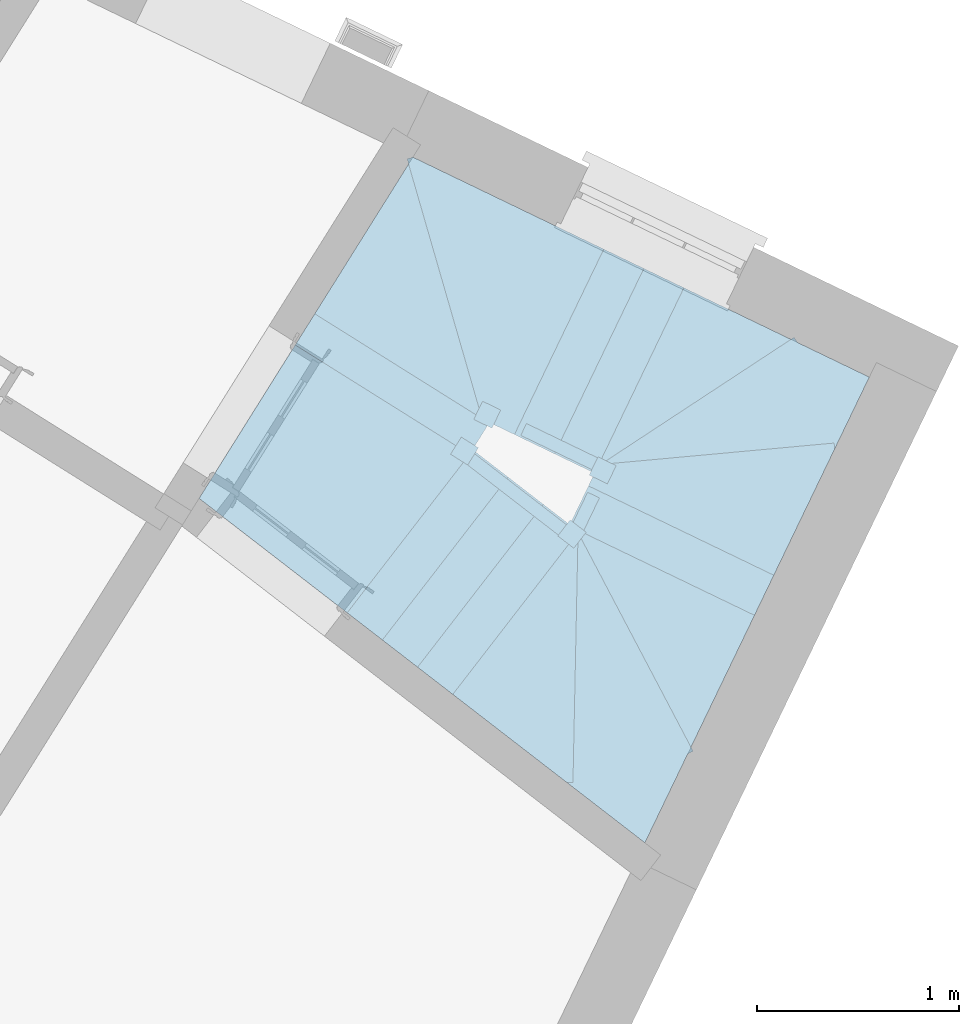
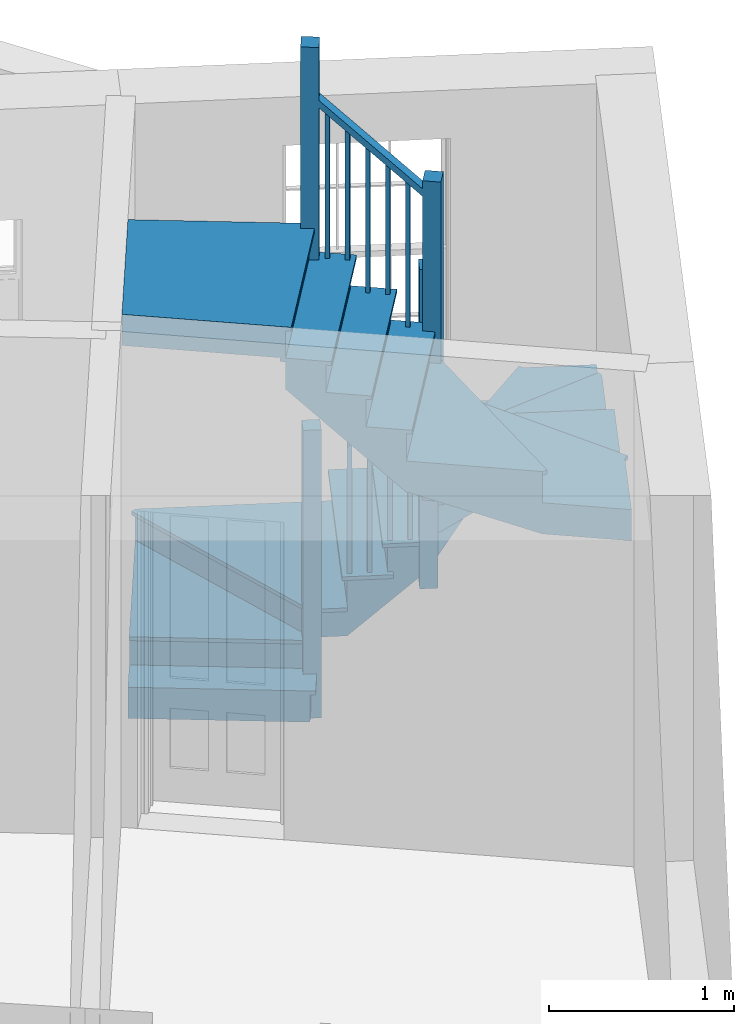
# One storey, part 6 of 6: 1 stair.
"""IFC4 building model written with IfcOpenShell, lengths in metres."""

from ifc_helpers import new_model, si_unit, frame, origin, origin_with_axes, place, context, subcontext, project, spatial, faceted_brep, element, save


model = new_model("IFC4")

# Units and contexts
model_context = context("Model", 3, world=origin_with_axes())
body_context = subcontext(model_context, "Body", "Model", "MODEL_VIEW")
ifc_project = project(units=[si_unit("PLANEANGLEUNIT", "RADIAN"), si_unit("MASSUNIT", "GRAM", prefix="KILO"), si_unit("FORCEUNIT", "NEWTON", prefix="KILO"), si_unit("LENGTHUNIT", "METRE"), si_unit("AREAUNIT", "SQUARE_METRE"), si_unit("VOLUMEUNIT", "CUBIC_METRE")], contexts=[model_context, model_context])

# Sites, building, storey
site_1_placement = place(None, origin_with_axes())
site_1 = spatial("IfcSite", under=ifc_project, at=site_1_placement, Name="Tamar")
site_2_placement = place(site_1_placement, origin_with_axes())
site_2 = spatial("IfcSite", under=site_1, at=site_2_placement, Name="Site plot-0", CompositionType="ELEMENT")
building_placement = place(None, origin_with_axes())
building = spatial("IfcBuilding", under=site_2, at=building_placement, Name="Building plot-0", CompositionType="ELEMENT")
storey_placement = place(None, frame((0.0, 0.0, 26.0), z_axis=(0.0, 0.0, 1.0), x_axis=(1.0, 0.0, 0.0)))
storey = spatial("IfcBuildingStorey", under=building, at=storey_placement, Name="plot-0 0", CompositionType="ELEMENT", Elevation=26.0)

# Stair
stair_placement = place(None, origin())
element("IfcStair", 1, at=stair_placement, inside=storey, Name="Stair", PredefinedType="NOTDEFINED", context=body_context, shape_type="Brep", body=[
    faceted_brep([(219.2889, 299.676695, 29.09375), (218.684835, 298.894737, 29.09375), (218.858937, 298.760243, 29.09375), (219.463002, 299.542201, 29.09375), (219.463002, 299.542201, 28.68125), (218.858937, 298.760243, 28.68125), (218.684835, 298.894737, 28.8875), (219.2889, 299.676695, 28.8875)], [[[0, 1, 2, 3]], [[4, 5, 6, 7]], [[7, 6, 1, 0]], [[1, 6, 5, 2]], [[5, 4, 3, 2]], [[3, 4, 7, 0]]]),
    faceted_brep([(218.858937, 298.760243, 29.06875), (218.882678, 298.741902, 29.06875), (218.858937, 298.760243, 29.09375), (218.661094, 298.913077, 29.06875), (218.684835, 298.894737, 29.06875), (218.684835, 298.894737, 29.09375), (218.882678, 298.741902, 29.09375), (218.661094, 298.913077, 29.09375), (219.505083, 299.547602, 29.09375), (219.463002, 299.542201, 29.09375), (219.463002, 299.542201, 29.06875), (219.505083, 299.547602, 29.06875), (219.283499, 299.718776, 29.09375), (219.2889, 299.676695, 29.09375), (219.2889, 299.676695, 29.06875), (219.283499, 299.718776, 29.06875)], [[[0, 1, 2]], [[3, 4, 5]], [[1, 6, 2]], [[7, 3, 5]], [[2, 6, 8, 9]], [[0, 2, 9, 10]], [[1, 0, 10, 11]], [[6, 1, 11, 8]], [[9, 8, 12, 13]], [[10, 9, 13, 14]], [[11, 10, 14, 15]], [[8, 11, 15, 12]], [[13, 12, 7, 5]], [[14, 13, 5, 4]], [[15, 14, 4, 3]], [[12, 15, 3, 7]]]),
    faceted_brep([(219.463002, 299.542201, 29.99375), (219.443218, 299.557484, 29.99375), (219.427934, 299.5377, 29.99375), (219.447719, 299.522417, 29.99375), (219.447719, 299.522417, 29.09375), (219.427934, 299.5377, 29.09375), (219.443218, 299.557484, 29.09375), (219.463002, 299.542201, 29.09375)], [[[0, 1, 2, 3]], [[4, 5, 6, 7]], [[7, 6, 1, 0]], [[6, 5, 2, 1]], [[5, 4, 3, 2]], [[4, 7, 0, 3]]]),
    faceted_brep([(219.375951, 299.609448, 30.096875), (219.356167, 299.624731, 30.096875), (219.340884, 299.604947, 30.096875), (219.360668, 299.589664, 30.096875), (219.360668, 299.589664, 29.09375), (219.340884, 299.604947, 29.09375), (219.356167, 299.624731, 29.09375), (219.375951, 299.609448, 29.09375)], [[[0, 1, 2, 3]], [[4, 5, 6, 7]], [[7, 6, 1, 0]], [[6, 5, 2, 1]], [[5, 4, 3, 2]], [[4, 7, 0, 3]]]),
    faceted_brep([(219.435492, 299.506589, 29.94375), (219.475229, 299.558028, 29.94375), (219.475229, 299.558028, 29.99375), (219.435492, 299.506589, 29.99375), (219.301127, 299.692522, 30.15), (219.26139, 299.641083, 30.15), (219.26139, 299.641083, 30.2), (219.301127, 299.692522, 30.2)], [[[0, 1, 2, 3]], [[4, 5, 6, 7]], [[0, 5, 4, 1]], [[3, 2, 7, 6]], [[0, 3, 6, 5]], [[2, 1, 4, 7]]]),
    faceted_brep([(219.463002, 299.542201, 28.8875), (218.858937, 298.760243, 28.8875), (219.033038, 298.625749, 28.8875), (219.637104, 299.407707, 28.8875), (219.637104, 299.407707, 28.475), (219.033038, 298.625749, 28.475), (218.858937, 298.760243, 28.68125), (219.463002, 299.542201, 28.68125)], [[[0, 1, 2, 3]], [[4, 5, 6, 7]], [[7, 6, 1, 0]], [[1, 6, 5, 2]], [[5, 4, 3, 2]], [[3, 4, 7, 0]]]),
    faceted_brep([(219.033038, 298.625749, 28.8625), (219.056779, 298.607408, 28.8625), (219.033038, 298.625749, 28.8875), (218.835195, 298.778583, 28.8625), (218.858937, 298.760243, 28.8625), (218.858937, 298.760243, 28.8875), (219.056779, 298.607408, 28.8875), (218.835195, 298.778583, 28.8875), (219.679185, 299.413108, 28.8875), (219.637104, 299.407707, 28.8875), (219.637104, 299.407707, 28.8625), (219.679185, 299.413108, 28.8625), (219.457601, 299.584282, 28.8875), (219.463002, 299.542201, 28.8875), (219.463002, 299.542201, 28.8625), (219.457601, 299.584282, 28.8625)], [[[0, 1, 2]], [[3, 4, 5]], [[1, 6, 2]], [[7, 3, 5]], [[2, 6, 8, 9]], [[0, 2, 9, 10]], [[1, 0, 10, 11]], [[6, 1, 11, 8]], [[9, 8, 12, 13]], [[10, 9, 13, 14]], [[11, 10, 14, 15]], [[8, 11, 15, 12]], [[13, 12, 7, 5]], [[14, 13, 5, 4]], [[15, 14, 4, 3]], [[12, 15, 3, 7]]]),
    faceted_brep([(219.637104, 299.407707, 29.7875), (219.617319, 299.42299, 29.7875), (219.602036, 299.403206, 29.7875), (219.62182, 299.387923, 29.7875), (219.62182, 299.387923, 28.8875), (219.602036, 299.403206, 28.8875), (219.617319, 299.42299, 28.8875), (219.637104, 299.407707, 28.8875)], [[[0, 1, 2, 3]], [[4, 5, 6, 7]], [[7, 6, 1, 0]], [[6, 5, 2, 1]], [[5, 4, 3, 2]], [[4, 7, 0, 3]]]),
    faceted_brep([(219.550053, 299.474954, 29.890625), (219.530269, 299.490237, 29.890625), (219.514985, 299.470453, 29.890625), (219.534769, 299.45517, 29.890625), (219.534769, 299.45517, 28.8875), (219.514985, 299.470453, 28.8875), (219.530269, 299.490237, 28.8875), (219.550053, 299.474954, 28.8875)], [[[0, 1, 2, 3]], [[4, 5, 6, 7]], [[7, 6, 1, 0]], [[6, 5, 2, 1]], [[5, 4, 3, 2]], [[4, 7, 0, 3]]]),
    faceted_brep([(219.609593, 299.372095, 29.7375), (219.64933, 299.423534, 29.7375), (219.64933, 299.423534, 29.7875), (219.609593, 299.372095, 29.7875), (219.475229, 299.558028, 29.94375), (219.435492, 299.506589, 29.94375), (219.435492, 299.506589, 29.99375), (219.475229, 299.558028, 29.99375)], [[[0, 1, 2, 3]], [[4, 5, 6, 7]], [[0, 5, 4, 1]], [[3, 2, 7, 6]], [[0, 3, 6, 5]], [[2, 1, 4, 7]]]),
    faceted_brep([(219.637104, 299.407707, 28.68125), (219.033038, 298.625749, 28.68125), (219.20714, 298.491254, 28.68125), (219.811205, 299.273213, 28.68125), (219.811205, 299.273213, 28.26875), (219.20714, 298.491254, 28.26875), (219.033038, 298.625749, 28.475), (219.637104, 299.407707, 28.475)], [[[0, 1, 2, 3]], [[4, 5, 6, 7]], [[7, 6, 1, 0]], [[1, 6, 5, 2]], [[5, 4, 3, 2]], [[3, 4, 7, 0]]]),
    faceted_brep([(219.20714, 298.491254, 28.65625), (219.230881, 298.472914, 28.65625), (219.20714, 298.491254, 28.68125), (219.009297, 298.644089, 28.65625), (219.033038, 298.625749, 28.65625), (219.033038, 298.625749, 28.68125), (219.230881, 298.472914, 28.68125), (219.009297, 298.644089, 28.68125), (219.853286, 299.278614, 28.68125), (219.811205, 299.273213, 28.68125), (219.811205, 299.273213, 28.65625), (219.853286, 299.278614, 28.65625), (219.631703, 299.449788, 28.68125), (219.637104, 299.407707, 28.68125), (219.637104, 299.407707, 28.65625), (219.631703, 299.449788, 28.65625)], [[[0, 1, 2]], [[3, 4, 5]], [[1, 6, 2]], [[7, 3, 5]], [[2, 6, 8, 9]], [[0, 2, 9, 10]], [[1, 0, 10, 11]], [[6, 1, 11, 8]], [[9, 8, 12, 13]], [[10, 9, 13, 14]], [[11, 10, 14, 15]], [[8, 11, 15, 12]], [[13, 12, 7, 5]], [[14, 13, 5, 4]], [[15, 14, 4, 3]], [[12, 15, 3, 7]]]),
    faceted_brep([(219.811205, 299.273213, 29.58125), (219.791421, 299.288496, 29.58125), (219.776137, 299.268712, 29.58125), (219.795922, 299.253429, 29.58125), (219.795922, 299.253429, 28.68125), (219.776137, 299.268712, 28.68125), (219.791421, 299.288496, 28.68125), (219.811205, 299.273213, 28.68125)], [[[0, 1, 2, 3]], [[4, 5, 6, 7]], [[7, 6, 1, 0]], [[6, 5, 2, 1]], [[5, 4, 3, 2]], [[4, 7, 0, 3]]]),
    faceted_brep([(219.724154, 299.34046, 29.684375), (219.70437, 299.355743, 29.684375), (219.689087, 299.335959, 29.684375), (219.708871, 299.320676, 29.684375), (219.708871, 299.320676, 28.68125), (219.689087, 299.335959, 28.68125), (219.70437, 299.355743, 28.68125), (219.724154, 299.34046, 28.68125)], [[[0, 1, 2, 3]], [[4, 5, 6, 7]], [[7, 6, 1, 0]], [[6, 5, 2, 1]], [[5, 4, 3, 2]], [[4, 7, 0, 3]]]),
    faceted_brep([(219.783695, 299.237601, 29.53125), (219.823432, 299.28904, 29.53125), (219.823432, 299.28904, 29.58125), (219.783695, 299.237601, 29.58125), (219.64933, 299.423534, 29.7375), (219.609593, 299.372095, 29.7375), (219.609593, 299.372095, 29.7875), (219.64933, 299.423534, 29.7875)], [[[0, 1, 2, 3]], [[4, 5, 6, 7]], [[0, 5, 4, 1]], [[3, 2, 7, 6]], [[0, 3, 6, 5]], [[2, 1, 4, 7]]]),
    faceted_brep([(219.811205, 299.273213, 28.475), (219.20714, 298.491254, 28.475), (219.21646, 298.484054, 28.475), (219.820526, 299.266013, 28.475), (219.820526, 299.266013, 28.26875), (219.21646, 298.484054, 28.26875), (219.20714, 298.491254, 28.26875), (219.811205, 299.273213, 28.26875)], [[[0, 1, 2, 3]], [[4, 5, 6, 7]], [[7, 6, 1, 0]], [[6, 5, 2, 1]], [[5, 4, 3, 2]], [[4, 7, 0, 3]]]),
    faceted_brep([(219.820526, 299.266013, 28.45), (219.838866, 299.289754, 28.45), (219.820526, 299.266013, 28.475), (219.829545, 299.296954, 28.45), (219.811205, 299.273213, 28.45), (219.811205, 299.273213, 28.475), (219.838866, 299.289754, 28.475), (219.829545, 299.296954, 28.475)], [[[0, 1, 2]], [[3, 4, 5]], [[1, 6, 2]], [[7, 3, 5]], [[2, 6, 7, 5]], [[0, 2, 5, 4]], [[1, 0, 4, 3]], [[6, 1, 3, 7]]]),
    faceted_brep([(219.890661, 299.275015, 29.675), (219.811524, 299.336148, 29.675), (219.75039, 299.257011, 29.675), (219.829527, 299.195877, 29.675), (219.829527, 299.195877, 28.475), (219.75039, 299.257011, 28.475), (219.811524, 299.336148, 28.475), (219.890661, 299.275015, 28.475)], [[[0, 1, 2, 3]], [[4, 5, 6, 7]], [[7, 6, 1, 0]], [[6, 5, 2, 1]], [[5, 4, 3, 2]], [[4, 7, 0, 3]]]),
    faceted_brep([(219.21646, 298.484054, 28.475), (219.795399, 298.036822, 28.475), (219.820526, 299.266013, 28.475), (219.820526, 299.266013, 28.0625), (219.795399, 298.036822, 28.0625), (219.21646, 298.484054, 28.26875)], [[[0, 1, 2]], [[3, 4, 5]], [[0, 5, 4, 1]], [[4, 3, 2, 1]], [[2, 3, 5, 0]]]),
    faceted_brep([(219.795399, 298.036822, 28.45), (219.825393, 298.036209, 28.45), (219.795399, 298.036822, 28.475), (219.850519, 299.2654, 28.45), (219.820526, 299.266013, 28.45), (219.820526, 299.266013, 28.475), (219.825393, 298.036209, 28.475), (219.850519, 299.2654, 28.475)], [[[0, 1, 2]], [[3, 4, 5]], [[1, 6, 2]], [[7, 3, 5]], [[2, 6, 7, 5]], [[0, 2, 5, 4]], [[1, 0, 4, 3]], [[6, 1, 3, 7]]]),
    faceted_brep([(219.795399, 298.036822, 28.26875), (220.181359, 297.738667, 28.26875), (220.393082, 298.178024, 28.26875), (219.820526, 299.266013, 28.26875), (219.820526, 299.266013, 27.85625), (220.393082, 298.178024, 27.85625), (220.181359, 297.738667, 28.0625), (219.795399, 298.036822, 28.0625)], [[[0, 1, 2, 3]], [[4, 5, 6, 7]], [[7, 6, 1, 0]], [[1, 6, 5, 2]], [[5, 4, 3, 2]], [[3, 4, 7, 0]]]),
    faceted_brep([(220.419631, 298.191995, 28.24375), (220.419631, 298.191995, 28.26875), (220.393082, 298.178024, 28.24375), (219.847074, 299.279984, 28.26875), (219.847074, 299.279984, 28.24375), (219.820526, 299.266013, 28.24375), (220.393082, 298.178024, 28.26875), (219.820526, 299.266013, 28.26875)], [[[0, 1, 2]], [[3, 4, 5]], [[2, 1, 6]], [[3, 5, 7]], [[6, 1, 3, 7]], [[2, 6, 7, 5]], [[0, 2, 5, 4]], [[1, 0, 4, 3]]]),
    faceted_brep([(220.393082, 298.178024, 28.0625), (220.710667, 298.837059, 28.0625), (219.820526, 299.266013, 28.0625), (219.820526, 299.266013, 27.65), (220.710667, 298.837059, 27.65), (220.393082, 298.178024, 27.85625)], [[[0, 1, 2]], [[3, 4, 5]], [[0, 5, 4, 1]], [[4, 3, 2, 1]], [[2, 3, 5, 0]]]),
    faceted_brep([(220.723691, 298.864084, 28.0375), (220.723691, 298.864084, 28.0625), (220.710667, 298.837059, 28.0375), (219.833549, 299.293038, 28.0625), (219.833549, 299.293038, 28.0375), (219.820526, 299.266013, 28.0375), (220.710667, 298.837059, 28.0625), (219.820526, 299.266013, 28.0625)], [[[0, 1, 2]], [[3, 4, 5]], [[2, 1, 6]], [[3, 5, 7]], [[6, 1, 3, 7]], [[2, 6, 7, 5]], [[0, 2, 5, 4]], [[1, 0, 4, 3]]]),
    faceted_brep([(219.890661, 299.275015, 28.475), (219.811524, 299.336148, 28.475), (219.75039, 299.257011, 28.475), (219.829527, 299.195877, 28.475), (219.829527, 299.195877, 27.5625), (219.75039, 299.257011, 27.5625), (219.811524, 299.336148, 27.5625), (219.890661, 299.275015, 27.5625)], [[[0, 1, 2, 3]], [[4, 5, 6, 7]], [[7, 6, 1, 0]], [[6, 5, 2, 1]], [[5, 4, 3, 2]], [[4, 7, 0, 3]]]),
    faceted_brep([(219.820526, 299.266013, 27.85625), (220.710667, 298.837059, 27.85625), (220.806173, 299.035247, 27.85625), (219.916031, 299.464201, 27.85625), (219.916031, 299.464201, 27.44375), (220.806173, 299.035247, 27.44375), (220.710667, 298.837059, 27.65), (219.820526, 299.266013, 27.65)], [[[0, 1, 2, 3]], [[4, 5, 6, 7]], [[7, 6, 1, 0]], [[1, 6, 5, 2]], [[5, 4, 3, 2]], [[3, 4, 7, 0]]]),
    faceted_brep([(220.806173, 299.035247, 27.83125), (220.819197, 299.062273, 27.83125), (220.806173, 299.035247, 27.85625), (220.697644, 298.810033, 27.83125), (220.710667, 298.837059, 27.83125), (220.710667, 298.837059, 27.85625), (220.819197, 299.062273, 27.85625), (220.697644, 298.810033, 27.85625), (219.902029, 299.50425, 27.85625), (219.916031, 299.464201, 27.85625), (219.916031, 299.464201, 27.83125), (219.902029, 299.50425, 27.83125), (219.780476, 299.252011, 27.85625), (219.820526, 299.266013, 27.85625), (219.820526, 299.266013, 27.83125), (219.780476, 299.252011, 27.83125)], [[[0, 1, 2]], [[3, 4, 5]], [[1, 6, 2]], [[7, 3, 5]], [[2, 6, 8, 9]], [[0, 2, 9, 10]], [[1, 0, 10, 11]], [[6, 1, 11, 8]], [[9, 8, 12, 13]], [[10, 9, 13, 14]], [[11, 10, 14, 15]], [[8, 11, 15, 12]], [[13, 12, 7, 5]], [[14, 13, 5, 4]], [[15, 14, 4, 3]], [[12, 15, 3, 7]]]),
    faceted_brep([(219.916031, 299.464201, 28.75625), (219.905179, 299.44168, 28.75625), (219.9277, 299.430827, 28.75625), (219.938553, 299.453348, 28.75625), (219.938553, 299.453348, 27.85625), (219.9277, 299.430827, 27.85625), (219.905179, 299.44168, 27.85625), (219.916031, 299.464201, 27.85625)], [[[0, 1, 2, 3]], [[4, 5, 6, 7]], [[7, 6, 1, 0]], [[6, 5, 2, 1]], [[5, 4, 3, 2]], [[4, 7, 0, 3]]]),
    faceted_brep([(219.868279, 299.365107, 28.859375), (219.857426, 299.342586, 28.859375), (219.879947, 299.331733, 28.859375), (219.8908, 299.354254, 28.859375), (219.8908, 299.354254, 27.85625), (219.879947, 299.331733, 27.85625), (219.857426, 299.342586, 27.85625), (219.868279, 299.365107, 27.85625)], [[[0, 1, 2, 3]], [[4, 5, 6, 7]], [[7, 6, 1, 0]], [[6, 5, 2, 1]], [[5, 4, 3, 2]], [[4, 7, 0, 3]]]),
    faceted_brep([(219.95657, 299.444666, 28.70625), (219.898014, 299.472884, 28.70625), (219.898014, 299.472884, 28.75625), (219.95657, 299.444666, 28.75625), (219.802508, 299.274695, 28.9125), (219.861064, 299.246478, 28.9125), (219.861064, 299.246478, 28.9625), (219.802508, 299.274695, 28.9625)], [[[0, 1, 2, 3]], [[4, 5, 6, 7]], [[0, 5, 4, 1]], [[3, 2, 7, 6]], [[0, 3, 6, 5]], [[2, 1, 4, 7]]]),
    faceted_brep([(219.916031, 299.464201, 27.65), (220.806173, 299.035247, 27.65), (220.862556, 299.15225, 27.65), (219.972415, 299.581204, 27.65), (219.972415, 299.581204, 27.44375), (220.862556, 299.15225, 27.44375), (220.806173, 299.035247, 27.44375), (219.916031, 299.464201, 27.44375)], [[[0, 1, 2, 3]], [[4, 5, 6, 7]], [[7, 6, 1, 0]], [[6, 5, 2, 1]], [[5, 4, 3, 2]], [[4, 7, 0, 3]]]),
    faceted_brep([(219.945389, 299.594228, 27.625), (219.945389, 299.594228, 27.65), (219.972415, 299.581204, 27.625), (219.889006, 299.477225, 27.65), (219.889006, 299.477225, 27.625), (219.916031, 299.464201, 27.625), (219.972415, 299.581204, 27.65), (219.916031, 299.464201, 27.65)], [[[0, 1, 2]], [[3, 4, 5]], [[2, 1, 6]], [[3, 5, 7]], [[6, 1, 3, 7]], [[2, 6, 7, 5]], [[0, 2, 5, 4]], [[1, 0, 4, 3]]]),
    faceted_brep([(219.949078, 299.647953, 28.85), (219.905666, 299.557867, 28.85), (219.995752, 299.514456, 28.85), (220.039163, 299.604541, 28.85), (220.039163, 299.604541, 27.65), (219.995752, 299.514456, 27.65), (219.905666, 299.557867, 27.65), (219.949078, 299.647953, 27.65)], [[[0, 1, 2, 3]], [[4, 5, 6, 7]], [[7, 6, 1, 0]], [[6, 5, 2, 1]], [[5, 4, 3, 2]], [[4, 7, 0, 3]]]),
    faceted_brep([(220.862556, 299.15225, 27.65), (221.119929, 299.686335, 27.65), (219.972415, 299.581204, 27.65), (219.972415, 299.581204, 27.2375), (221.119929, 299.686335, 27.2375), (220.862556, 299.15225, 27.44375)], [[[0, 1, 2]], [[3, 4, 5]], [[0, 5, 4, 1]], [[4, 3, 2, 1]], [[2, 3, 5, 0]]]),
    faceted_brep([(221.117192, 299.71621, 27.625), (221.117192, 299.71621, 27.65), (221.119929, 299.686335, 27.625), (219.969678, 299.611079, 27.65), (219.969678, 299.611079, 27.625), (219.972415, 299.581204, 27.625), (221.119929, 299.686335, 27.65), (219.972415, 299.581204, 27.65)], [[[0, 1, 2]], [[3, 4, 5]], [[2, 1, 6]], [[3, 5, 7]], [[6, 1, 3, 7]], [[2, 6, 7, 5]], [[0, 2, 5, 4]], [[1, 0, 4, 3]]]),
    faceted_brep([(221.119929, 299.686335, 27.44375), (221.291511, 300.042392, 27.44375), (220.935454, 300.213974, 27.44375), (219.972415, 299.581204, 27.44375), (219.972415, 299.581204, 27.03125), (220.935454, 300.213974, 27.03125), (221.291511, 300.042392, 27.2375), (221.119929, 299.686335, 27.2375)], [[[0, 1, 2, 3]], [[4, 5, 6, 7]], [[7, 6, 1, 0]], [[1, 6, 5, 2]], [[5, 4, 3, 2]], [[3, 4, 7, 0]]]),
    faceted_brep([(220.935454, 300.213974, 27.41875), (220.91898, 300.239046, 27.41875), (220.935454, 300.213974, 27.44375), (219.955941, 299.606277, 27.41875), (219.972415, 299.581204, 27.41875), (219.972415, 299.581204, 27.44375), (220.91898, 300.239046, 27.44375), (219.955941, 299.606277, 27.44375)], [[[0, 1, 2]], [[3, 4, 5]], [[1, 6, 2]], [[7, 3, 5]], [[2, 6, 7, 5]], [[0, 2, 5, 4]], [[1, 0, 4, 3]], [[6, 1, 3, 7]]]),
    faceted_brep([(220.935454, 300.213974, 27.2375), (220.401369, 300.471346, 27.2375), (219.972415, 299.581204, 27.2375), (219.972415, 299.581204, 26.825), (220.401369, 300.471346, 26.825), (220.935454, 300.213974, 27.03125)], [[[0, 1, 2]], [[3, 4, 5]], [[0, 5, 4, 1]], [[4, 3, 2, 1]], [[2, 3, 5, 0]]]),
    faceted_brep([(220.374343, 300.48437, 27.2125), (220.374343, 300.48437, 27.2375), (220.401369, 300.471346, 27.2125), (219.945389, 299.594228, 27.2375), (219.945389, 299.594228, 27.2125), (219.972415, 299.581204, 27.2125), (220.401369, 300.471346, 27.2375), (219.972415, 299.581204, 27.2375)], [[[0, 1, 2]], [[3, 4, 5]], [[2, 1, 6]], [[3, 5, 7]], [[6, 1, 3, 7]], [[2, 6, 7, 5]], [[0, 2, 5, 4]], [[1, 0, 4, 3]]]),
    faceted_brep([(219.949078, 299.647953, 27.65), (219.905666, 299.557867, 27.65), (219.995752, 299.514456, 27.65), (220.039163, 299.604541, 27.65), (220.039163, 299.604541, 26.7375), (219.995752, 299.514456, 26.7375), (219.905666, 299.557867, 26.7375), (219.949078, 299.647953, 26.7375)], [[[0, 1, 2, 3]], [[4, 5, 6, 7]], [[7, 6, 1, 0]], [[6, 5, 2, 1]], [[5, 4, 3, 2]], [[4, 7, 0, 3]]]),
    faceted_brep([(219.972415, 299.581204, 27.03125), (220.401369, 300.471346, 27.03125), (220.20318, 300.566852, 27.03125), (219.774226, 299.67671, 27.03125), (219.774226, 299.67671, 26.61875), (220.20318, 300.566852, 26.61875), (220.401369, 300.471346, 26.825), (219.972415, 299.581204, 26.825)], [[[0, 1, 2, 3]], [[4, 5, 6, 7]], [[7, 6, 1, 0]], [[1, 6, 5, 2]], [[5, 4, 3, 2]], [[3, 4, 7, 0]]]),
    faceted_brep([(220.176155, 300.579876, 27.00625), (220.176155, 300.579876, 27.03125), (220.20318, 300.566852, 27.00625), (220.428394, 300.458323, 27.03125), (220.428394, 300.458323, 27.00625), (220.401369, 300.471346, 27.00625), (220.20318, 300.566852, 27.03125), (220.401369, 300.471346, 27.03125), (219.734177, 299.662708, 27.03125), (219.774226, 299.67671, 27.03125), (219.774226, 299.67671, 27.00625), (219.734177, 299.662708, 27.00625), (219.986417, 299.541155, 27.03125), (219.972415, 299.581204, 27.03125), (219.972415, 299.581204, 27.00625), (219.986417, 299.541155, 27.00625)], [[[0, 1, 2]], [[3, 4, 5]], [[2, 1, 6]], [[3, 5, 7]], [[6, 1, 8, 9]], [[2, 6, 9, 10]], [[0, 2, 10, 11]], [[1, 0, 11, 8]], [[9, 8, 12, 13]], [[10, 9, 13, 14]], [[11, 10, 14, 15]], [[8, 11, 15, 12]], [[13, 12, 3, 7]], [[14, 13, 7, 5]], [[15, 14, 5, 4]], [[12, 15, 4, 3]]]),
    faceted_brep([(219.774226, 299.67671, 27.93125), (219.796748, 299.665857, 27.93125), (219.807601, 299.688379, 27.93125), (219.785079, 299.699232, 27.93125), (219.785079, 299.699232, 27.03125), (219.807601, 299.688379, 27.03125), (219.796748, 299.665857, 27.03125), (219.774226, 299.67671, 27.03125)], [[[0, 1, 2, 3]], [[4, 5, 6, 7]], [[7, 6, 1, 0]], [[6, 5, 2, 1]], [[5, 4, 3, 2]], [[4, 7, 0, 3]]]),
    faceted_brep([(219.87332, 299.628957, 28.034375), (219.895842, 299.618104, 28.034375), (219.906695, 299.640626, 28.034375), (219.884173, 299.651479, 28.034375), (219.884173, 299.651479, 27.03125), (219.906695, 299.640626, 27.03125), (219.895842, 299.618104, 27.03125), (219.87332, 299.628957, 27.03125)], [[[0, 1, 2, 3]], [[4, 5, 6, 7]], [[7, 6, 1, 0]], [[6, 5, 2, 1]], [[5, 4, 3, 2]], [[4, 7, 0, 3]]]),
    faceted_brep([(219.793761, 299.717249, 27.88125), (219.765544, 299.658693, 27.88125), (219.765544, 299.658693, 27.93125), (219.793761, 299.717249, 27.93125), (219.963732, 299.563187, 28.0875), (219.99195, 299.621743, 28.0875), (219.99195, 299.621743, 28.1375), (219.963732, 299.563187, 28.1375)], [[[0, 1, 2, 3]], [[4, 5, 6, 7]], [[0, 5, 4, 1]], [[3, 2, 7, 6]], [[0, 3, 6, 5]], [[2, 1, 4, 7]]]),
    faceted_brep([(219.774226, 299.67671, 26.825), (220.20318, 300.566852, 26.825), (220.004992, 300.662358, 26.825), (219.576038, 299.772216, 26.825), (219.576038, 299.772216, 26.4125), (220.004992, 300.662358, 26.4125), (220.20318, 300.566852, 26.61875), (219.774226, 299.67671, 26.61875)], [[[0, 1, 2, 3]], [[4, 5, 6, 7]], [[7, 6, 1, 0]], [[1, 6, 5, 2]], [[5, 4, 3, 2]], [[3, 4, 7, 0]]]),
    faceted_brep([(220.004992, 300.662358, 26.8), (219.977966, 300.675381, 26.8), (220.004992, 300.662358, 26.825), (220.230206, 300.553829, 26.8), (220.20318, 300.566852, 26.8), (220.20318, 300.566852, 26.825), (219.977966, 300.675381, 26.825), (220.230206, 300.553829, 26.825), (219.535989, 299.758214, 26.825), (219.576038, 299.772216, 26.825), (219.576038, 299.772216, 26.8), (219.535989, 299.758214, 26.8), (219.788228, 299.636661, 26.825), (219.774226, 299.67671, 26.825), (219.774226, 299.67671, 26.8), (219.788228, 299.636661, 26.8)], [[[0, 1, 2]], [[3, 4, 5]], [[1, 6, 2]], [[7, 3, 5]], [[2, 6, 8, 9]], [[0, 2, 9, 10]], [[1, 0, 10, 11]], [[6, 1, 11, 8]], [[9, 8, 12, 13]], [[10, 9, 13, 14]], [[11, 10, 14, 15]], [[8, 11, 15, 12]], [[13, 12, 7, 5]], [[14, 13, 5, 4]], [[15, 14, 4, 3]], [[12, 15, 3, 7]]]),
    faceted_brep([(219.576038, 299.772216, 27.725), (219.598559, 299.761363, 27.725), (219.609412, 299.783884, 27.725), (219.586891, 299.794737, 27.725), (219.586891, 299.794737, 26.825), (219.609412, 299.783884, 26.825), (219.598559, 299.761363, 26.825), (219.576038, 299.772216, 26.825)], [[[0, 1, 2, 3]], [[4, 5, 6, 7]], [[7, 6, 1, 0]], [[6, 5, 2, 1]], [[5, 4, 3, 2]], [[4, 7, 0, 3]]]),
    faceted_brep([(219.675132, 299.724463, 27.828125), (219.697653, 299.71361, 27.828125), (219.708506, 299.736132, 27.828125), (219.685985, 299.746985, 27.828125), (219.685985, 299.746985, 26.825), (219.708506, 299.736132, 26.825), (219.697653, 299.71361, 26.825), (219.675132, 299.724463, 26.825)], [[[0, 1, 2, 3]], [[4, 5, 6, 7]], [[7, 6, 1, 0]], [[6, 5, 2, 1]], [[5, 4, 3, 2]], [[4, 7, 0, 3]]]),
    faceted_brep([(219.595573, 299.812755, 27.675), (219.567355, 299.754199, 27.675), (219.567355, 299.754199, 27.725), (219.595573, 299.812755, 27.725), (219.765544, 299.658693, 27.88125), (219.793761, 299.717249, 27.88125), (219.793761, 299.717249, 27.93125), (219.765544, 299.658693, 27.93125)], [[[0, 1, 2, 3]], [[4, 5, 6, 7]], [[0, 5, 4, 1]], [[3, 2, 7, 6]], [[0, 3, 6, 5]], [[2, 1, 4, 7]]]),
    faceted_brep([(219.576038, 299.772216, 26.61875), (220.004992, 300.662358, 26.61875), (219.830414, 300.746486, 26.61875), (219.40146, 299.856344, 26.61875), (219.40146, 299.856344, 26.4125), (219.830414, 300.746486, 26.4125), (220.004992, 300.662358, 26.4125), (219.576038, 299.772216, 26.4125)], [[[0, 1, 2, 3]], [[4, 5, 6, 7]], [[7, 6, 1, 0]], [[6, 5, 2, 1]], [[5, 4, 3, 2]], [[4, 7, 0, 3]]]),
    faceted_brep([(219.40146, 299.856344, 26.59375), (219.388437, 299.829318, 26.59375), (219.40146, 299.856344, 26.61875), (219.563014, 299.74519, 26.59375), (219.576038, 299.772216, 26.59375), (219.576038, 299.772216, 26.61875), (219.388437, 299.829318, 26.61875), (219.563014, 299.74519, 26.61875)], [[[0, 1, 2]], [[3, 4, 5]], [[1, 6, 2]], [[7, 3, 5]], [[2, 6, 7, 5]], [[0, 2, 5, 4]], [[1, 0, 4, 3]], [[6, 1, 3, 7]]]),
    faceted_brep([(219.334711, 299.833007, 27.81875), (219.424797, 299.789595, 27.81875), (219.468209, 299.879681, 27.81875), (219.378123, 299.923093, 27.81875), (219.378123, 299.923093, 26.61875), (219.468209, 299.879681, 26.61875), (219.424797, 299.789595, 26.61875), (219.334711, 299.833007, 26.61875)], [[[0, 1, 2, 3]], [[4, 5, 6, 7]], [[7, 6, 1, 0]], [[6, 5, 2, 1]], [[5, 4, 3, 2]], [[4, 7, 0, 3]]]),
    faceted_brep([(219.830414, 300.746486, 26.61875), (219.033699, 301.130418, 26.61875), (219.40146, 299.856344, 26.61875), (219.40146, 299.856344, 26.20625), (219.033699, 301.130418, 26.20625), (219.830414, 300.746486, 26.4125)], [[[0, 1, 2]], [[3, 4, 5]], [[0, 5, 4, 1]], [[4, 3, 2, 1]], [[2, 3, 5, 0]]]),
    faceted_brep([(219.004876, 301.122098, 26.59375), (219.004876, 301.122098, 26.61875), (219.033699, 301.130418, 26.59375), (219.372637, 299.848024, 26.61875), (219.372637, 299.848024, 26.59375), (219.40146, 299.856344, 26.59375), (219.033699, 301.130418, 26.61875), (219.40146, 299.856344, 26.61875)], [[[0, 1, 2]], [[3, 4, 5]], [[2, 1, 6]], [[3, 5, 7]], [[6, 1, 3, 7]], [[2, 6, 7, 5]], [[0, 2, 5, 4]], [[1, 0, 4, 3]]]),
    faceted_brep([(219.033699, 301.130418, 26.4125), (218.564133, 300.380974, 26.4125), (219.40146, 299.856344, 26.4125), (219.40146, 299.856344, 26.0), (218.564133, 300.380974, 26.0), (219.033699, 301.130418, 26.20625)], [[[0, 1, 2]], [[3, 4, 5]], [[0, 5, 4, 1]], [[4, 3, 2, 1]], [[2, 3, 5, 0]]]),
    faceted_brep([(218.564133, 300.380974, 26.3875), (218.548204, 300.355552, 26.3875), (218.564133, 300.380974, 26.4125), (219.385532, 299.830922, 26.3875), (219.40146, 299.856344, 26.3875), (219.40146, 299.856344, 26.4125), (218.548204, 300.355552, 26.4125), (219.385532, 299.830922, 26.4125)], [[[0, 1, 2]], [[3, 4, 5]], [[1, 6, 2]], [[7, 3, 5]], [[2, 6, 7, 5]], [[0, 2, 5, 4]], [[1, 0, 4, 3]], [[6, 1, 3, 7]]]),
    faceted_brep([(219.334711, 299.833007, 26.61875), (219.424797, 299.789595, 26.61875), (219.468209, 299.879681, 26.61875), (219.378123, 299.923093, 26.61875), (219.378123, 299.923093, 25.9125), (219.468209, 299.879681, 25.9125), (219.424797, 299.789595, 25.9125), (219.334711, 299.833007, 25.9125)], [[[0, 1, 2, 3]], [[4, 5, 6, 7]], [[7, 6, 1, 0]], [[6, 5, 2, 1]], [[5, 4, 3, 2]], [[4, 7, 0, 3]]]),
    faceted_brep([(219.40146, 299.856344, 26.20625), (218.564133, 300.380974, 26.20625), (218.451573, 300.201325, 26.20625), (219.2889, 299.676695, 26.20625), (219.2889, 299.676695, 26.0), (218.451573, 300.201325, 26.0), (218.564133, 300.380974, 26.0), (219.40146, 299.856344, 26.0)], [[[0, 1, 2, 3]], [[4, 5, 6, 7]], [[7, 6, 1, 0]], [[6, 5, 2, 1]], [[5, 4, 3, 2]], [[4, 7, 0, 3]]]),
    faceted_brep([(219.314323, 299.660767, 26.18125), (219.314323, 299.660767, 26.20625), (219.2889, 299.676695, 26.18125), (219.426882, 299.840416, 26.20625), (219.426882, 299.840416, 26.18125), (219.40146, 299.856344, 26.18125), (219.2889, 299.676695, 26.20625), (219.40146, 299.856344, 26.20625)], [[[0, 1, 2]], [[3, 4, 5]], [[2, 1, 6]], [[3, 5, 7]], [[6, 1, 3, 7]], [[2, 6, 7, 5]], [[0, 2, 5, 4]], [[1, 0, 4, 3]]]),
    faceted_brep([(219.304724, 299.607777, 30.5), (219.357818, 299.692518, 30.5), (219.273077, 299.745613, 30.5), (219.219983, 299.660872, 30.5), (219.219983, 299.660872, 29.3), (219.273077, 299.745613, 29.3), (219.357818, 299.692518, 29.3), (219.304724, 299.607777, 29.3)], [[[0, 1, 2, 3]], [[4, 5, 6, 7]], [[7, 6, 1, 0]], [[6, 5, 2, 1]], [[5, 4, 3, 2]], [[4, 7, 0, 3]]]),
    faceted_brep([(219.2889, 299.676695, 29.3), (218.451573, 300.201325, 29.3), (217.976008, 299.442308, 29.3), (218.684835, 298.894737, 29.3), (218.684835, 298.894737, 29.09375), (217.976008, 299.442308, 29.09375), (218.451573, 300.201325, 29.09375), (219.2889, 299.676695, 29.09375)], [[[0, 1, 2, 3]], [[4, 5, 6, 7]], [[7, 6, 1, 0]], [[6, 5, 2, 1]], [[5, 4, 3, 2]], [[4, 7, 0, 3]]]),
    faceted_brep([(218.708576, 298.876397, 29.275), (218.708576, 298.876397, 29.3), (218.684835, 298.894737, 29.275), (219.312642, 299.658355, 29.3), (219.312642, 299.658355, 29.275), (219.2889, 299.676695, 29.275), (218.684835, 298.894737, 29.3), (219.2889, 299.676695, 29.3)], [[[0, 1, 2]], [[3, 4, 5]], [[2, 1, 6]], [[3, 5, 7]], [[6, 1, 3, 7]], [[2, 6, 7, 5]], [[0, 2, 5, 4]], [[1, 0, 4, 3]]]),
    faceted_brep([(219.304724, 299.607777, 29.3), (219.357818, 299.692518, 29.3), (219.273077, 299.745613, 29.3), (219.219983, 299.660872, 29.3), (219.219983, 299.660872, 28.8), (219.273077, 299.745613, 28.8), (219.357818, 299.692518, 28.8), (219.304724, 299.607777, 28.8)], [[[0, 1, 2, 3]], [[4, 5, 6, 7]], [[7, 6, 1, 0]], [[6, 5, 2, 1]], [[5, 4, 3, 2]], [[4, 7, 0, 3]]]),
])

save(model, "model.ifc")
